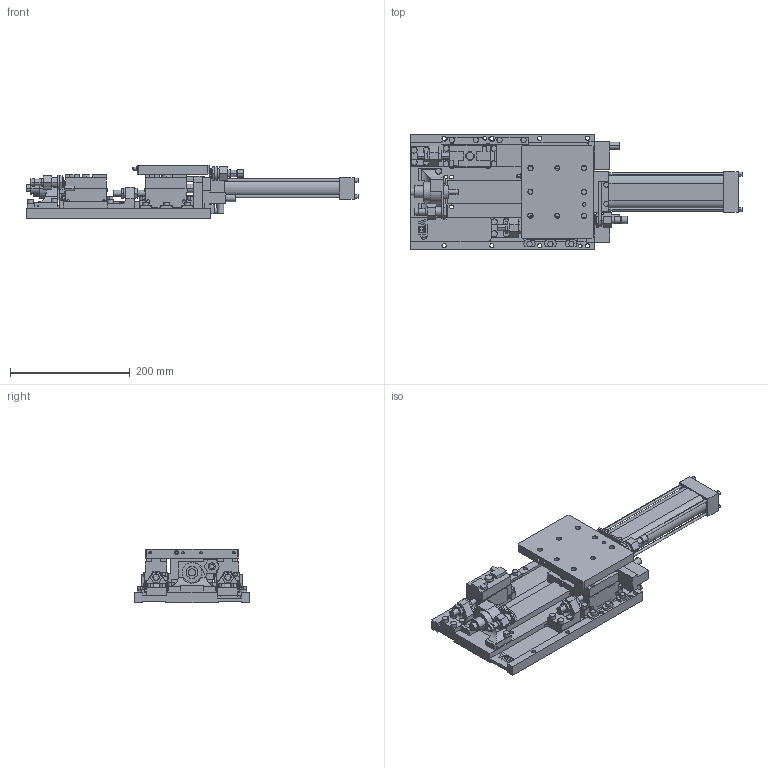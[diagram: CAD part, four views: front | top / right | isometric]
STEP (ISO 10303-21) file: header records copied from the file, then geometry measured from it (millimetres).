
FILE_DESCRIPTION (( 'STEP AP214' ), '1' );
FILE_NAME ('slg40_150.STEP', '2020-05-12T13:21:19', ( '' ), ( '' ), 'SwSTEP 2.0', 'SolidWorks 2019', '' );
FILE_SCHEMA (( 'AUTOMOTIVE_DESIGN' ));
Length unit declared in the file: millimetre
Products named in the file (8): base_slg40_150; piastra_superiore_slg40; staffa_deceleratore_slg40; deceleratore_slg40; otturatore_sx_slg40; slg40_150; otturatore_dx_slg40; staffa_ferma_otturatore_slg40
Assembly tree (8 placements, depth 2):
  slg40_150
    base_slg40_150
    piastra_superiore_slg40
    staffa_deceleratore_slg40
    deceleratore_slg40
    staffa_ferma_otturatore_slg40  x2
    otturatore_sx_slg40
    otturatore_dx_slg40
Bounding box: 555.6 x 192 x 90 mm (x, y, z)
Volume: 2403500.4 mm3; surface area: 448461.5 mm2
Topology: 18 solids, 20 shells, 1206 faces, 3022 edges, 1902 vertices
Faces by surface type: plane 632, cylinder 420, cone 146, torus 8
Entity records: 36774 total; most frequent: CARTESIAN_POINT 6494, DIRECTION 6075, ORIENTED_EDGE 5694, EDGE_CURVE 2847, AXIS2_PLACEMENT_3D 2091, VECTOR 1893, LINE 1893, VERTEX_POINT 1826
